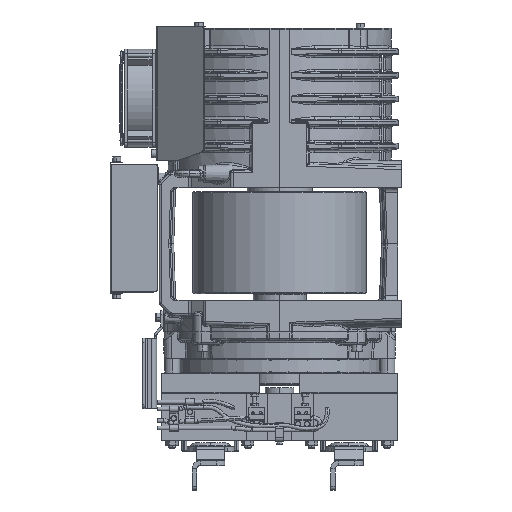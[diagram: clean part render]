
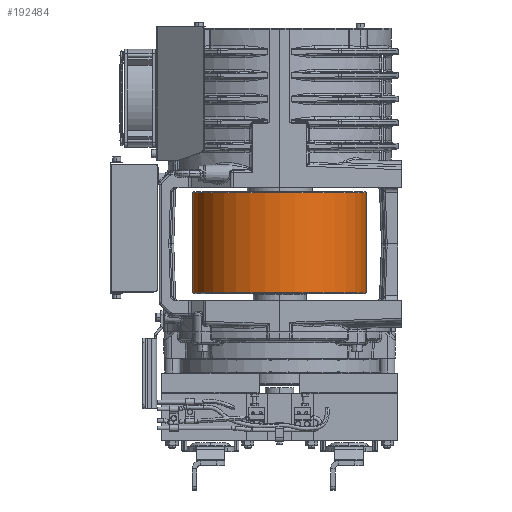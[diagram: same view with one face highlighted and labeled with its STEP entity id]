
A CAD part, left-side view. The second image highlights one B-rep face of the part: STEP entity #192484.
In plain terms, the highlighted cylindrical face has radius 106.5 mm (diameter 213 mm), a partial arc.
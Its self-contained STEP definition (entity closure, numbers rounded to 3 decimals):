
#185781=CARTESIAN_POINT('',(0.,0.,-69.));
#185782=DIRECTION('',(0.,0.,1.));
#185783=DIRECTION('',(0.,1.,0.));
#185784=AXIS2_PLACEMENT_3D('',#185781,#185782,#185783);
#185799=DIRECTION('',(0.,0.,1.));
#185800=VECTOR('',#185799,123.);
#185801=CARTESIAN_POINT('',(0.,-106.5,-69.));
#185802=LINE('',#185801,#185800);
#185803=DIRECTION('',(0.,0.,1.));
#185804=VECTOR('',#185803,123.);
#185805=CARTESIAN_POINT('',(0.,106.5,-69.));
#185806=LINE('',#185805,#185804);
#185807=CARTESIAN_POINT('',(0.,0.,54.));
#185808=DIRECTION('',(0.,0.,-1.));
#185809=DIRECTION('',(0.,-1.,0.));
#185810=AXIS2_PLACEMENT_3D('',#185807,#185808,#185809);
#189154=CARTESIAN_POINT('',(0.,106.5,54.));
#189155=VERTEX_POINT('',#189154);
#189156=CARTESIAN_POINT('',(0.,-106.5,54.));
#189157=VERTEX_POINT('',#189156);
#189158=CARTESIAN_POINT('',(0.,106.5,-69.));
#189159=CARTESIAN_POINT('',(0.,-106.5,-69.));
#189160=VERTEX_POINT('',#189158);
#189161=VERTEX_POINT('',#189159);
#192472=CARTESIAN_POINT('',(0.,0.,-77.));
#192473=DIRECTION('',(0.,0.,1.));
#192474=DIRECTION('',(0.,1.,0.));
#192475=AXIS2_PLACEMENT_3D('',#192472,#192473,#192474);
#192476=CYLINDRICAL_SURFACE('',#192475,106.5);
#192477=ORIENTED_EDGE('',*,*,#192437,.F.);
#192478=ORIENTED_EDGE('',*,*,#192467,.T.);
#192480=ORIENTED_EDGE('',*,*,#192479,.F.);
#192481=ORIENTED_EDGE('',*,*,#192463,.F.);
#192482=EDGE_LOOP('',(#192477,#192478,#192480,#192481));
#192483=FACE_OUTER_BOUND('',#192482,.F.);
#192484=ADVANCED_FACE('',(#192483),#192476,.T.);
#185785=CIRCLE('',#185784,106.5);
#185811=CIRCLE('',#185810,106.5);
#192437=EDGE_CURVE('',#189160,#189161,#185785,.T.);
#192463=EDGE_CURVE('',#189161,#189157,#185802,.T.);
#192467=EDGE_CURVE('',#189160,#189155,#185806,.T.);
#192479=EDGE_CURVE('',#189157,#189155,#185811,.T.);
